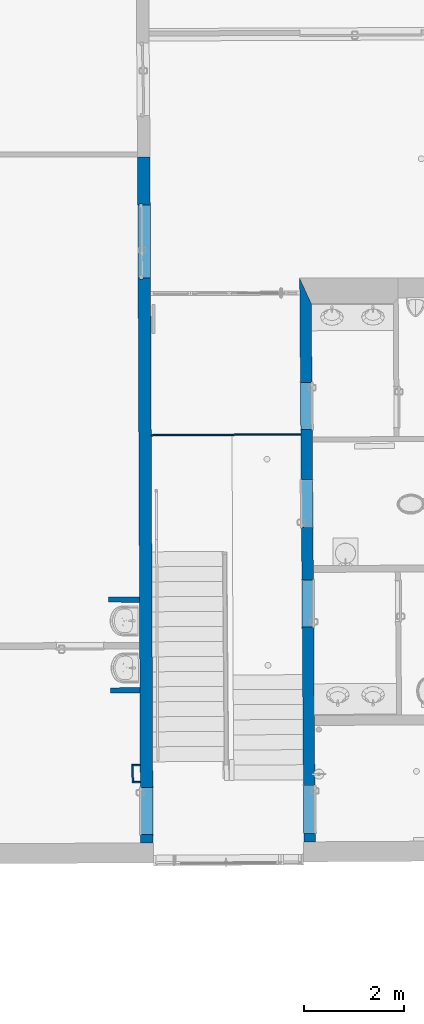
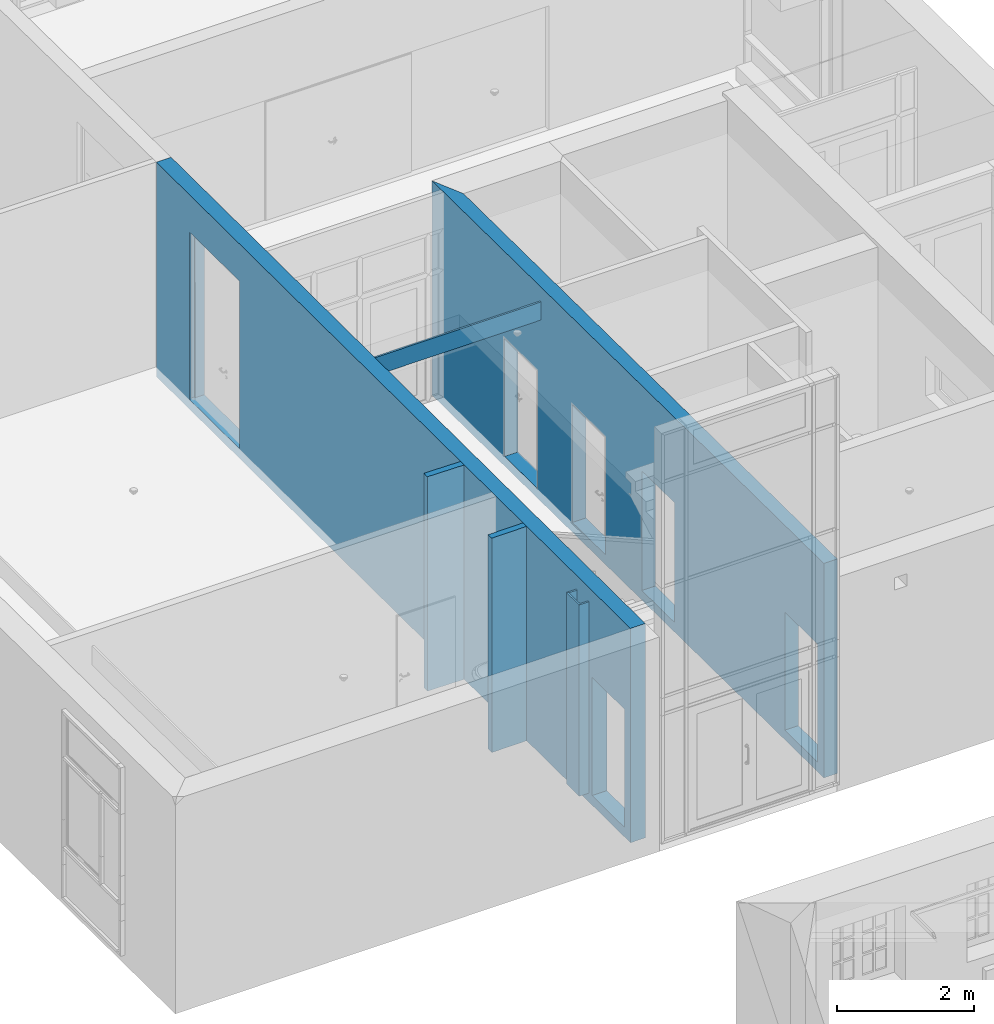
# One storey, part 31 of 196: 8 walls, 6 openings.
"""IFC2X3 building model written with IfcOpenShell, lengths in metres."""

from ifc_helpers import new_model, entity, si_unit, converted_unit, derived_unit, money_unit, direction, frame, origin_with_axes, origin_2d_with_axis, place, context, subcontext, project, spatial, polyline, rectangle, outline, extrude, material, layer, layer_set, layer_usage, type_object, element, save


model = new_model("IFC2X3")

# Units and contexts
model_context = context("Model", 3, precision=1e-05, world=origin_with_axes(), true_north=direction((0.0, 1.0)))
body_context = subcontext(model_context, "Body", "Model", "MODEL_VIEW")
ifc_project = project(units=[si_unit("LENGTHUNIT", "METRE"), si_unit("AREAUNIT", "SQUARE_METRE"), si_unit("VOLUMEUNIT", "CUBIC_METRE"), converted_unit("PLANEANGLEUNIT", "DEGREE", entity("IfcPlaneAngleMeasure", 0.0174532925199), si_unit("PLANEANGLEUNIT", "RADIAN"), dimensions=[0, 0, 0, 0, 0, 0, 0]), money_unit("EUR"), converted_unit("TIMEUNIT", "Year", entity("IfcTimeMeasure", 31556926.0), si_unit("TIMEUNIT", "SECOND"), dimensions=[0, 0, 1, 0, 0, 0, 0]), si_unit("MASSUNIT", "GRAM", prefix="KILO"), si_unit("THERMODYNAMICTEMPERATUREUNIT", "DEGREE_CELSIUS"), si_unit("LUMINOUSINTENSITYUNIT", "LUMEN"), si_unit("ENERGYUNIT", "JOULE", prefix="MEGA"), derived_unit("THERMALCONDUCTANCEUNIT", [(si_unit("POWERUNIT", "WATT"), 1), (si_unit("LENGTHUNIT", "METRE"), -1), (si_unit("THERMODYNAMICTEMPERATUREUNIT", "KELVIN"), -1)]), derived_unit("SPECIFICHEATCAPACITYUNIT", [(si_unit("ENERGYUNIT", "JOULE"), 1), (si_unit("MASSUNIT", "GRAM", prefix="KILO"), -1), (si_unit("THERMODYNAMICTEMPERATUREUNIT", "KELVIN"), -1)]), derived_unit("MASSDENSITYUNIT", [(si_unit("MASSUNIT", "GRAM", prefix="KILO"), 1), (si_unit("VOLUMEUNIT", "CUBIC_METRE"), -1)])], contexts=[model_context])

# Site, building, storey
site_placement = place(None, origin_with_axes())
site = spatial("IfcSite", under=ifc_project, at=site_placement, Name="Gelände", CompositionType="ELEMENT")
building_placement = place(site_placement, origin_with_axes())
building = spatial("IfcBuilding", under=site, at=building_placement, Name="Gebäude", CompositionType="ELEMENT")
storey_placement = place(building_placement, frame((0.0, 0.0, -3.0), z_axis=(0.0, 0.0, 1.0), x_axis=(1.0, 0.0, 0.0)))
storey = spatial("IfcBuildingStorey", under=building, at=storey_placement, Name="KELLERGESCHOSS", CompositionType="ELEMENT", Elevation=-3.0)

# Wall, openings
ifc_material_1 = material(Name="05_ALLGEMEIN - TRAGENDE BAUTEILE")
ifc_layer_1 = layer(ifc_material_1, 0.23, ventilated="UNKNOWN")
ifc_layer_set_1 = layer_set([ifc_layer_1], Name="05_ALLGEMEIN - TRAGENDE BAUTEILE 0.23")
ifc_layer_usage_1 = layer_usage(ifc_layer_set_1, "AXIS2", "NEGATIVE", 0.23)
wall_type_1 = type_object("IfcWallType", Name="05_ALLGEMEIN - TRAGENDE BAUTEILE 230", PredefinedType="ELEMENTEDWALL")
wall_1_placement = place(storey_placement, frame((-23.7249335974, 42.5725682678, 0.25), z_axis=(0.0, 0.0, 1.0), x_axis=(0.00736296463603, -0.999972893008, 0.0)))
wall_1 = element("IfcWallStandardCase", 1, at=wall_1_placement, inside=storey, type_object=wall_type_1, material=ifc_layer_usage_1, Name="Wand-030", ObjectType="ELEMENTEDWALL", context=body_context, shape_type="SweptSolid", body=[
    extrude(outline(polyline([(0.0, 0.0), (11.2647455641, 0.0), (11.26506242, 0.23), (0.510830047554, 0.23), (0.0, 0.0)])), origin_with_axes(), (0.0, 0.0, 1.0), 3.81),
])
opening_1_placement = place(wall_1_placement, frame((10.6126024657, 0.0, 0.17), z_axis=(0.0, 0.0, 1.0), x_axis=(1.0, 0.0, 0.0)))
element("IfcOpeningElement", 2, at=opening_1_placement, cuts=wall_1, Name="Tür-022", context=body_context, shape_type="SweptSolid", body=[
    extrude(rectangle(XDim=0.943053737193, YDim=2.09796366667, at=origin_2d_with_axis()), frame((0.0, 0.23, 1.04898183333), z_axis=(0.0, -1.0, 0.0), x_axis=(1.0, 0.0, 0.0)), (0.0, 0.0, 1.0), 0.69),
])
opening_2_placement = place(wall_1_placement, frame((6.50274865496, 0.0, 0.17), z_axis=(0.0, 0.0, 1.0), x_axis=(1.0, 0.0, 0.0)))
element("IfcOpeningElement", 3, at=opening_2_placement, cuts=wall_1, Name="Tür-022", context=body_context, shape_type="SweptSolid", body=[
    extrude(rectangle(XDim=0.943244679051, YDim=2.12619044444, at=origin_2d_with_axis()), frame((0.0, 0.23, 1.06309522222), z_axis=(0.0, 1.0, 0.0), x_axis=(-1.0, 0.0, 0.0)), (0.0, 0.0, -1.0), 0.69),
])
opening_3_placement = place(wall_1_placement, frame((4.50878798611, 0.0, 0.174161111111), z_axis=(0.0, 0.0, 1.0), x_axis=(1.0, 0.0, 0.0)))
element("IfcOpeningElement", 4, at=opening_3_placement, cuts=wall_1, Name="Tür-022", context=body_context, shape_type="SweptSolid", body=[
    extrude(rectangle(XDim=0.946639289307, YDim=2.093398, at=origin_2d_with_axis()), frame((0.0, -0.23, 1.046699), z_axis=(0.0, 1.0, 0.0), x_axis=(-1.0, 0.0, 0.0)), (0.0, 0.0, 1.0), 0.69),
])
opening_4_placement = place(wall_1_placement, frame((2.55495019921, 0.0, 0.17), z_axis=(0.0, 0.0, 1.0), x_axis=(1.0, 0.0, 0.0)))
element("IfcOpeningElement", 5, at=opening_4_placement, cuts=wall_1, Name="Tür-022", context=body_context, shape_type="SweptSolid", body=[
    extrude(rectangle(XDim=0.943147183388, YDim=2.09903377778, at=origin_2d_with_axis()), frame((0.0, 0.23, 1.04951688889), z_axis=(0.0, -1.0, 0.0), x_axis=(1.0, 0.0, 0.0)), (0.0, 0.0, 1.0), 0.69),
])

ifc_layer_2 = layer(ifc_material_1, 0.250000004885, ventilated="UNKNOWN")
ifc_layer_set_2 = layer_set([ifc_layer_2], Name="05_ALLGEMEIN - TRAGENDE BAUTEILE 0.25")
ifc_layer_usage_2 = layer_usage(ifc_layer_set_2, "AXIS2", "NEGATIVE", 0.0)
wall_type_2 = type_object("IfcWallType", Name="05_ALLGEMEIN - TRAGENDE BAUTEILE 250", PredefinedType="ELEMENTEDWALL")
wall_2_placement = place(storey_placement, frame((-26.7150160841, 44.9925691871, 0.25), z_axis=(0.0, 0.0, 1.0), x_axis=(0.00440459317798, -0.999990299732, 0.0)))
wall_2 = element("IfcWallStandardCase", 6, at=wall_2_placement, inside=storey, type_object=wall_type_2, material=ifc_layer_usage_2, Name="Wand-031", ObjectType="ELEMENTEDWALL", context=body_context, shape_type="SweptSolid", body=[
    extrude(outline(polyline([(0.000421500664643, -0.25), (13.703001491, -0.25), (13.7026062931, 0.0), (0.0, 0.0), (0.000421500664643, -0.25)])), origin_with_axes(), (0.0, 0.0, 1.0), 3.81),
])
opening_5_placement = place(wall_2_placement, frame((13.0653257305, 0.0, 0.17), z_axis=(0.0, 0.0, 1.0), x_axis=(1.0, 0.0, 0.0)))
element("IfcOpeningElement", 7, at=opening_5_placement, cuts=wall_2, Name="Tür-022", context=body_context, shape_type="SweptSolid", body=[
    extrude(rectangle(XDim=0.943903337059, YDim=2.09862066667, at=origin_2d_with_axis()), frame((0.0, -0.25, 1.04931033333), z_axis=(0.0, -1.0, 0.0), x_axis=(1.0, 0.0, 0.0)), (0.0, 0.0, -1.0), 0.75),
])
opening_6_placement = place(wall_2_placement, frame((1.68468873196, 0.0, 0.17), z_axis=(0.0, 0.0, 1.0), x_axis=(1.0, 0.0, 0.0)))
element("IfcOpeningElement", 8, at=opening_6_placement, cuts=wall_2, Name="Tür-022", context=body_context, shape_type="SweptSolid", body=[
    extrude(rectangle(XDim=1.45150553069, YDim=2.97865511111, at=origin_2d_with_axis()), frame((0.0, -0.155, 1.48932755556), z_axis=(0.0, 1.0, 0.0), x_axis=(-1.0, 0.0, 0.0)), (0.0, 0.0, 1.0), 0.405),
    extrude(rectangle(XDim=1.49150553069, YDim=2.99865511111, at=origin_2d_with_axis()), frame((0.0, -0.22, 1.49932755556), z_axis=(0.0, -1.0, 0.0), x_axis=(-1.0, 0.0, 0.0)), (0.0, 0.0, -1.0), 0.065),
    extrude(rectangle(XDim=1.45150553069, YDim=2.97865511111, at=origin_2d_with_axis()), frame((0.0, -0.22, 1.48932755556), z_axis=(0.0, -1.0, 0.0), x_axis=(-1.0, 0.0, 0.0)), (0.0, 0.0, 1.0), 0.28),
])

# Walls
ifc_material_2 = material(Name="43_Gipskarton")
ifc_layer_3 = layer(ifc_material_2, 0.03, ventilated="UNKNOWN")
ifc_layer_set_3 = layer_set([ifc_layer_3], Name="43_Gipskarton 0.03")
ifc_layer_usage_3 = layer_usage(ifc_layer_set_3, "AXIS2", "NEGATIVE", 0.03)
wall_type_3 = type_object("IfcWallType", Name="43_Gipskarton 30", PredefinedType="ELEMENTEDWALL")
wall_3_placement = place(storey_placement, frame((-27.0749922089, 32.4861083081, 0.41), z_axis=(0.0, 0.0, 1.0), x_axis=(0.999992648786, 0.00383436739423, 0.0)))
element("IfcWallStandardCase", 9, at=wall_3_placement, inside=storey, type_object=wall_type_3, material=ifc_layer_usage_3, Name="Wand-031", ObjectType="ELEMENTEDWALL", context=body_context, shape_type="SweptSolid", body=[
    extrude(outline(polyline([(0.0, 0.0), (0.165058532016, 0.0), (0.165041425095, 0.03), (0.0299215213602, 0.03), (0.0, 0.0)])), origin_with_axes(), (0.0, 0.0, 1.0), 3.4),
])
ifc_layer_usage_4 = layer_usage(ifc_layer_set_3, "AXIS2", "NEGATIVE", 0.03)
wall_4_placement = place(storey_placement, frame((-27.0773976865, 32.858828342, 0.41), z_axis=(0.0, 0.0, 1.0), x_axis=(0.00645371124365, -0.999979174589, 0.0)))
element("IfcWallStandardCase", 10, at=wall_4_placement, inside=storey, type_object=wall_type_3, material=ifc_layer_usage_4, Name="Wand-032", ObjectType="ELEMENTEDWALL", context=body_context, shape_type="SweptSolid", body=[
    extrude(outline(polyline([(0.0, 0.0), (0.372727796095, 0.0), (0.342806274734, 0.03), (0.0301942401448, 0.03), (0.0, 0.0)])), origin_with_axes(), (0.0, 0.0, 1.0), 3.4),
])
ifc_layer_usage_5 = layer_usage(ifc_layer_set_3, "AXIS2", "NEGATIVE", 0.0)
wall_5_placement = place(storey_placement, frame((-27.0773976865, 32.858828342, 0.41), z_axis=(0.0, 0.0, 1.0), x_axis=(1.0, 0.0, 0.0)))
element("IfcWallStandardCase", 11, at=wall_5_placement, inside=storey, type_object=wall_type_3, material=ifc_layer_usage_5, Name="Wand-032", ObjectType="ELEMENTEDWALL", context=body_context, shape_type="SweptSolid", body=[
    extrude(outline(polyline([(0.0301942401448, -0.03), (0.16595602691, -0.03), (0.165823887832, 0.0), (0.0, 0.0), (0.0301942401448, -0.03)])), origin_with_axes(), (0.0, 0.0, 1.0), 3.4),
])
ifc_layer_4 = layer(ifc_material_1, 0.03, ventilated="UNKNOWN")
ifc_layer_set_4 = layer_set([ifc_layer_4], Name="05_ALLGEMEIN - TRAGENDE BAUTEILE 0.03")
ifc_layer_usage_6 = layer_usage(ifc_layer_set_4, "AXIS2", "NEGATIVE", 0.03)
wall_type_4 = type_object("IfcWallType", Name="05_ALLGEMEIN - TRAGENDE BAUTEILE 30", PredefinedType="ELEMENTEDWALL")
wall_6_placement = place(storey_placement, frame((-26.6904683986, 39.4194216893, 3.48), z_axis=(0.0, 0.0, 1.0), x_axis=(0.999981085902, 0.00615043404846, 0.0)))
element("IfcWallStandardCase", 12, at=wall_6_placement, inside=storey, type_object=wall_type_4, material=ifc_layer_usage_6, Name="Wand-049", ObjectType="ELEMENTEDWALL", context=body_context, shape_type="SweptSolid", body=[
    extrude(outline(polyline([(0.0, 0.0), (2.98867311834, 0.0), (2.98863674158, 0.03), (5.2376015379e-05, 0.03), (0.0, 0.0)])), origin_with_axes(), (0.0, 0.0, 1.0), 0.32),
])
ifc_layer_5 = layer(ifc_material_1, 0.105, ventilated="UNKNOWN")
ifc_layer_set_5 = layer_set([ifc_layer_5], Name="05_ALLGEMEIN - TRAGENDE BAUTEILE 0.105")
ifc_layer_usage_7 = layer_usage(ifc_layer_set_5, "AXIS2", "NEGATIVE", 0.105)
wall_type_5 = type_object("IfcWallType", Name="05_ALLGEMEIN - TRAGENDE BAUTEILE 105", PredefinedType="ELEMENTEDWALL")
wall_7_placement = place(storey_placement, frame((-26.6762633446, 36.1943982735, 0.25), z_axis=(0.0, 0.0, 1.0), x_axis=(-0.999923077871, 0.01240315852, 0.0)))
element("IfcWallStandardCase", 13, at=wall_7_placement, inside=storey, type_object=wall_type_5, material=ifc_layer_usage_7, Name="Wand-030", ObjectType="ELEMENTEDWALL", context=body_context, shape_type="SweptSolid", body=[
    extrude(outline(polyline([(0.250035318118, 0.0), (0.86437382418, 0.0), (0.86437382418, 0.105), (0.248270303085, 0.105), (0.250035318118, 0.0)])), origin_with_axes(), (0.0, 0.0, 1.0), 3.81),
])
ifc_layer_usage_8 = layer_usage(ifc_layer_set_5, "AXIS2", "NEGATIVE", 0.0)
wall_8_placement = place(storey_placement, frame((-26.6678813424, 34.2914027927, 0.25), z_axis=(0.0, 0.0, 1.0), x_axis=(-0.999925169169, -0.012233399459, 0.0)))
element("IfcWallStandardCase", 14, at=wall_8_placement, inside=storey, type_object=wall_type_5, material=ifc_layer_usage_8, Name="Wand-030", ObjectType="ELEMENTEDWALL", context=body_context, shape_type="SweptSolid", body=[
    extrude(outline(polyline([(0.249185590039, -0.105), (0.840608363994, -0.105), (0.840608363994, 0.0), (0.250007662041, 0.0), (0.249185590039, -0.105)])), origin_with_axes(), (0.0, 0.0, 1.0), 3.81),
])

save(model, "model.ifc")
